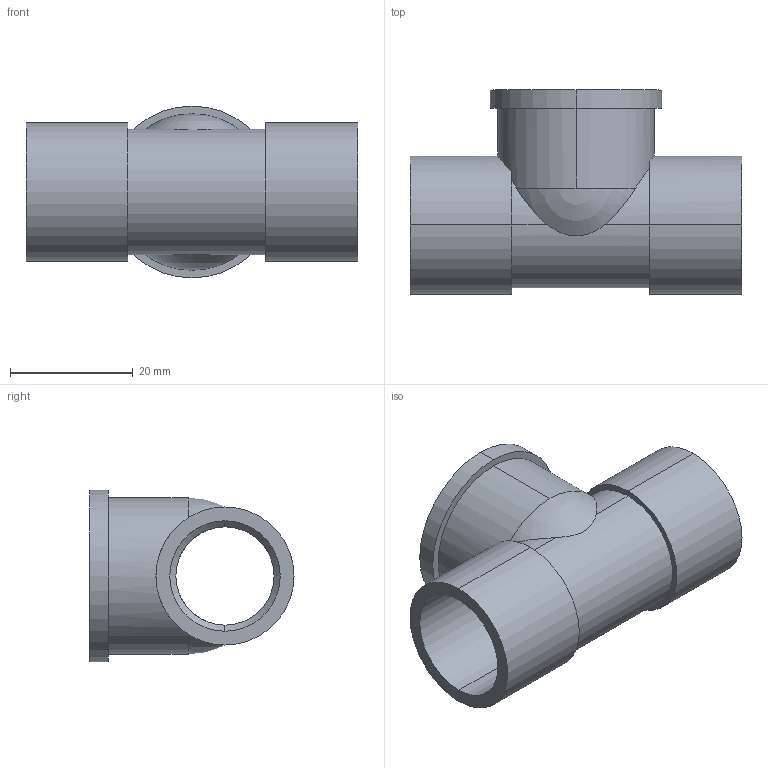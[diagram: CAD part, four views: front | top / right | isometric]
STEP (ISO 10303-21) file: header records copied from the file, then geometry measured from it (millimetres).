
FILE_DESCRIPTION (( 'STEP AP203' ), '1' );
FILE_NAME ('4130 18x12.STEP', '2024-01-27T00:25:06', ( '' ), ( '' ), 'SwSTEP 2.0', 'SolidWorks 2018', '' );
FILE_SCHEMA (( 'CONFIG_CONTROL_DESIGN' ));
Length unit declared in the file: millimetre
Products named in the file (1): 4130   18x12
Bounding box: 54 x 33.25 x 28 mm (x, y, z)
Volume: 10120.7 mm3; surface area: 9451.6 mm2
Topology: 1 solids, 1 shells, 58 faces, 162 edges, 103 vertices
Faces by surface type: cylinder 36, cone 8, plane 8, sphere 4, bspline 2
Entity records: 2831 total; most frequent: CARTESIAN_POINT 1395, ORIENTED_EDGE 312, DIRECTION 262, EDGE_CURVE 156, AXIS2_PLACEMENT_3D 106, VERTEX_POINT 101, EDGE_LOOP 63, FACE_OUTER_BOUND 58
